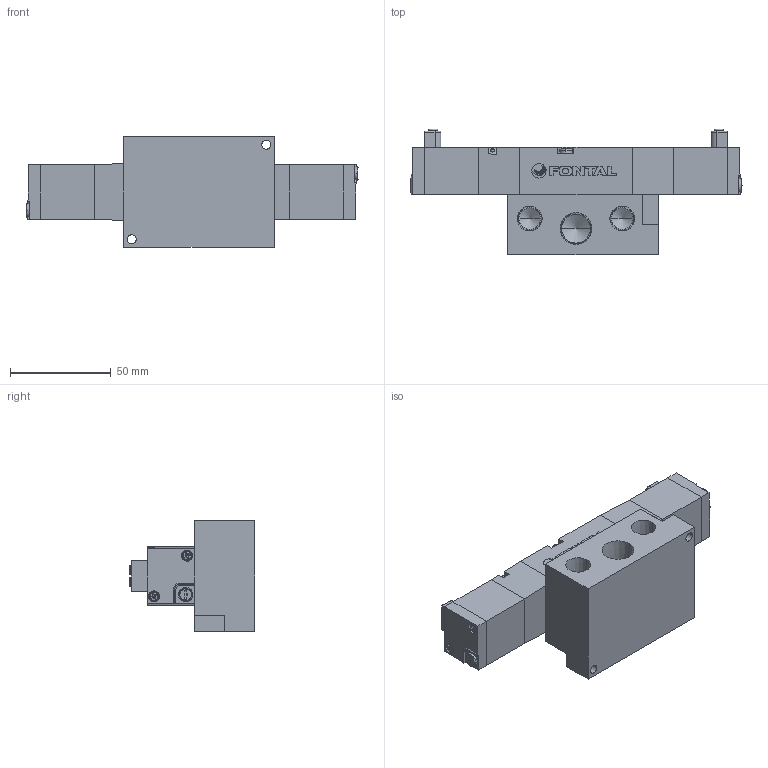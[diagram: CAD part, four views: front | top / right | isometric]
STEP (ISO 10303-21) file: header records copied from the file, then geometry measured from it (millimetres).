
FILE_DESCRIPTION (( 'STEP AP203' ), '1' );
FILE_NAME ('PCD2408#-03-#L#.STEP', '2016-02-04T06:00:34', ( 'Sam Lin' ), ( '' ), 'SwSTEP 2.0', 'SolidWorks 2013', '' );
FILE_SCHEMA (( 'CONFIG_CONTROL_DESIGN' ));
Length unit declared in the file: metre
Products named in the file (11): PCS2406-7-L; PC08-4; PC08-1; PCS2406-3-小圓珠; PC08-2; PCD2408#-03-#L#; PC08-MARK; PC6-M4; PCS2406-8; PCS2406-9; PC6-M3
Assembly tree (19 placements, depth 2):
  PCD2408#-03-#L#
    PC08-1
    PC08-2
    PC08-MARK
    PC6-M4  x2
    PCS2406-8  x2
    PCS2406-9  x2
    PC6-M3  x4
    PCS2406-7-L  x2
    PC08-4  x2
    PCS2406-3-小圓珠  x2
Bounding box: 165 x 62.5 x 55 mm (x, y, z)
Volume: 216373.2 mm3; surface area: 49416.5 mm2
Topology: 25 solids, 25 shells, 526 faces, 1295 edges, 817 vertices
Faces by surface type: plane 288, cylinder 94, cone 74, bspline 70
Entity records: 11328 total; most frequent: CARTESIAN_POINT 2766, ORIENTED_EDGE 1488, DIRECTION 1458, EDGE_CURVE 744, AXIS2_PLACEMENT_3D 507, VERTEX_POINT 487, VECTOR 444, LINE 444
